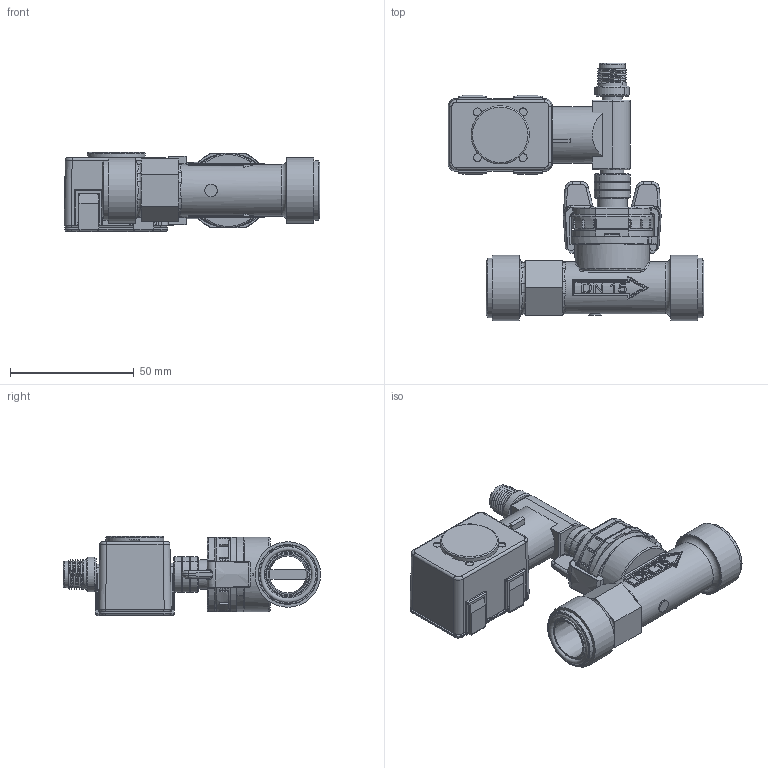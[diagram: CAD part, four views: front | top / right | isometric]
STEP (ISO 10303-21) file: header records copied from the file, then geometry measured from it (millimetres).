
FILE_DESCRIPTION(/* description */ (''),/* implementation_level */ '2;1');
FILE_NAME(/* name */ '212_x15xxxxxK.stp',/* time_stamp */ '2020-04-22T11:02:33+02:00',/* author */ (''),/* organization */ (''),/* preprocessor_version */ 'ST-DEVELOPER v16.7',/* originating_system */ 'SIEMENS PLM Software NX 12.0',/* authorisation */ '');
FILE_SCHEMA (('AUTOMOTIVE_DESIGN { 1 0 10303 214 3 1 1 1 }'));
Products named in the file (1): model1
Bounding box: 103.17 x 103.8 x 31.88 mm (x, y, z)
Volume: 89981.1 mm3; surface area: 46402.2 mm2
Topology: 5 solids, 11 shells, 1559 faces, 4167 edges, 2628 vertices
Faces by surface type: plane 645, cylinder 440, torus 119, extrusion 111, bspline 106, cone 103, sphere 34, revolution 1
Full cylindrical faces by diameter (mm): 1 x5, 3.234 x4, 5 x1, 5.76 x2, 7.98 x4, 8.15 x2, 8.98 x1, 9.25 x1, 10 x1, 10.4 x1, 10.6 x1, 12 x1, 15 x1, 15.17 x1, 15.4 x1, 16.093 x1, 17.4 x2, 19.707 x1, 21 x1, 22.5 x2, 23.426 x1, 24.1 x2, 26.441 x2, 30 x1
Entity records: 66173 total; most frequent: CARTESIAN_POINT 20544, ORIENTED_EDGE 7944, DIRECTION 7268, EDGE_CURVE 3972, AXIS2_PLACEMENT_3D 2719, VERTEX_POINT 2571, VECTOR 1829, EDGE_LOOP 1763
